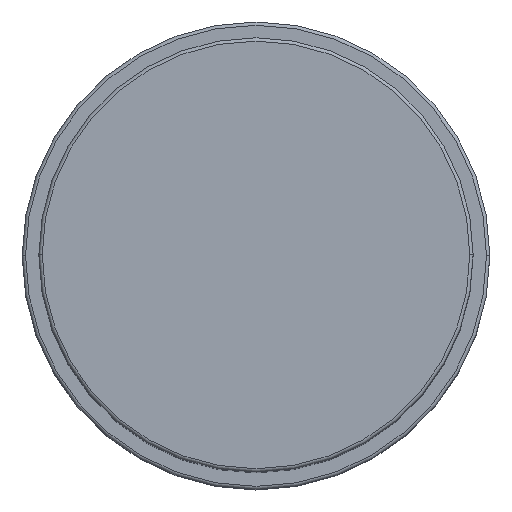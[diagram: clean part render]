
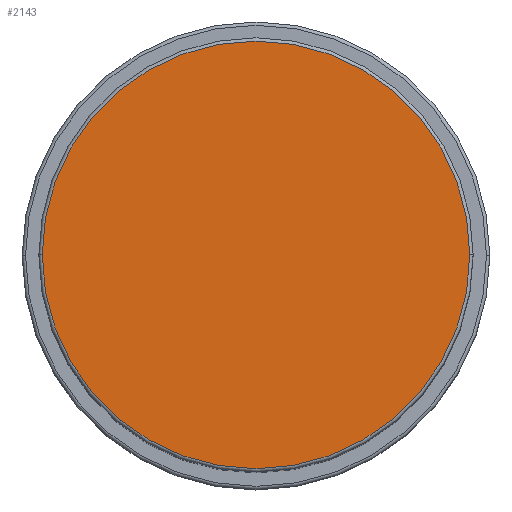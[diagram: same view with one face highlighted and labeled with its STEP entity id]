
A CAD part, top view. The second image highlights one B-rep face of the part: STEP entity #2143.
In plain terms, the highlighted planar face has unit normal (0, 0, 1).
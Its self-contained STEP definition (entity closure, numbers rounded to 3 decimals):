
#208 = CARTESIAN_POINT ( 'NONE',  ( 32., 0., 107. ) ) ;
#441 = FACE_OUTER_BOUND ( 'NONE', #496, .T. ) ;
#496 = EDGE_LOOP ( 'NONE', ( #4846, #2055 ) ) ;
#517 = DIRECTION ( 'NONE',  ( 0., 0., 1. ) ) ;
#520 = EDGE_CURVE ( 'NONE', #2665, #3797, #3735, .T. ) ;
#688 = CARTESIAN_POINT ( 'NONE',  ( -32., 0., 107. ) ) ;
#796 = EDGE_CURVE ( 'NONE', #3797, #2665, #4977, .T. ) ;
#1101 = DIRECTION ( 'NONE',  ( 1., 0., 0. ) ) ;
#1368 = DIRECTION ( 'NONE',  ( 0., 0., 1. ) ) ;
#1688 = AXIS2_PLACEMENT_3D ( 'NONE', #4279, #1368, #4262 ) ;
#2055 = ORIENTED_EDGE ( 'NONE', *, *, #520, .T. ) ;
#2143 = ADVANCED_FACE ( 'NONE', ( #441 ), #3591, .T. ) ;
#2665 = VERTEX_POINT ( 'NONE', #688 ) ;
#2727 = AXIS2_PLACEMENT_3D ( 'NONE', #5267, #2800, #1101 ) ;
#2800 = DIRECTION ( 'NONE',  ( 0., 0., 1. ) ) ;
#3017 = CARTESIAN_POINT ( 'NONE',  ( 0., 0., 107. ) ) ;
#3176 = AXIS2_PLACEMENT_3D ( 'NONE', #3017, #517, #5097 ) ;
#3591 = PLANE ( 'NONE',  #2727 ) ;
#3735 = CIRCLE ( 'NONE', #3176, 32. ) ;
#3797 = VERTEX_POINT ( 'NONE', #208 ) ;
#4262 = DIRECTION ( 'NONE',  ( 1., 0., 0. ) ) ;
#4279 = CARTESIAN_POINT ( 'NONE',  ( 0., 0., 107. ) ) ;
#4846 = ORIENTED_EDGE ( 'NONE', *, *, #796, .T. ) ;
#4977 = CIRCLE ( 'NONE', #1688, 32. ) ;
#5097 = DIRECTION ( 'NONE',  ( 1., 0., 0. ) ) ;
#5267 = CARTESIAN_POINT ( 'NONE',  ( 0., 0., 107. ) ) ;
